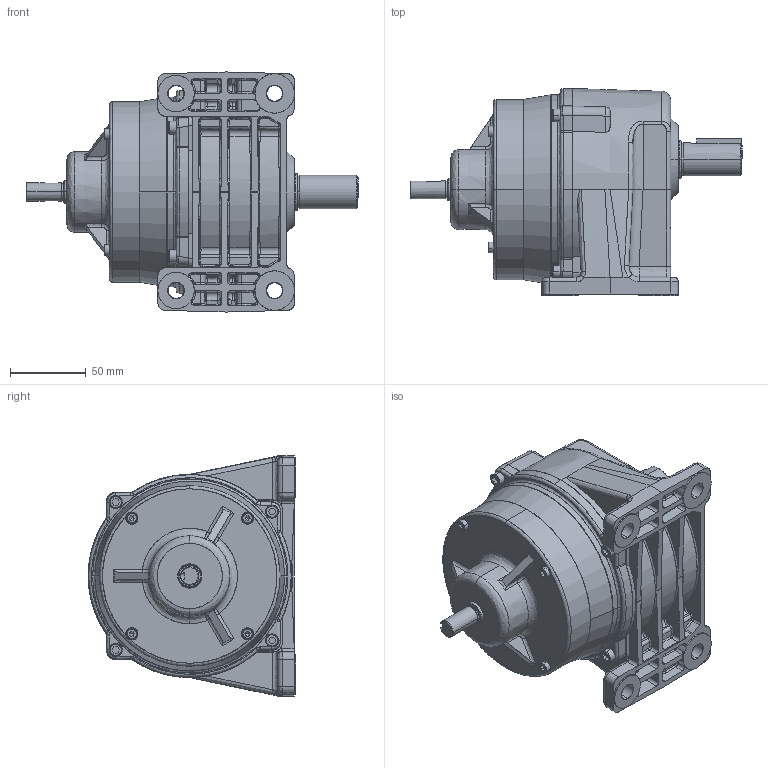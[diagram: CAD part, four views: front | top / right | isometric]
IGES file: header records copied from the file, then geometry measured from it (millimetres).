
Start section: SolidWorks IGES file using analytic representation for surfaces
Bounding box: 219 x 137 x 158.36 mm (x, y, z)
Surface area: 209620 mm2 (no closed solid volume)
Topology: 0 solids, 0 shells, 965 faces, 11382 edges, 11358 vertices
Faces by surface type: bspline 535, revolution 430
